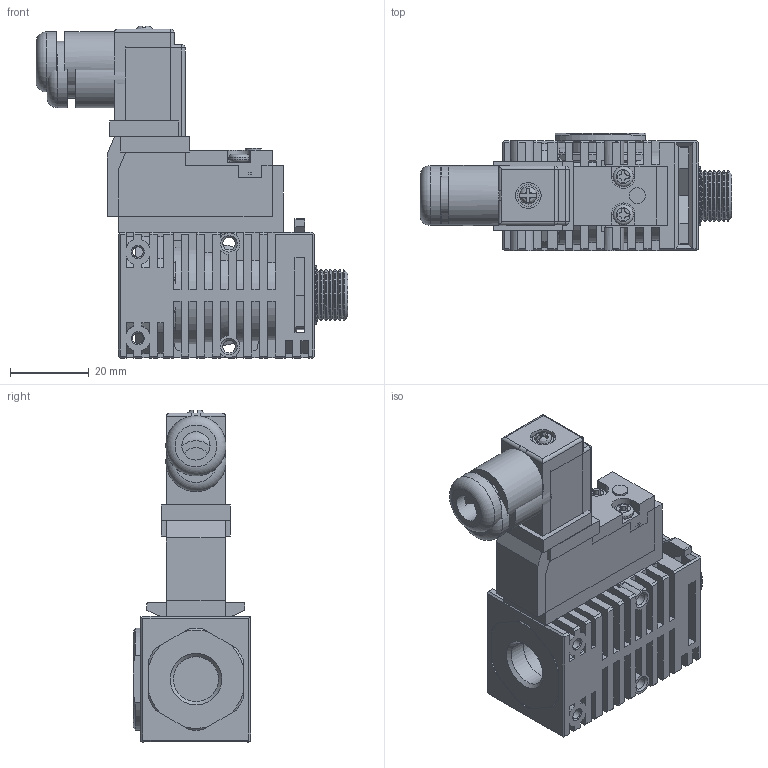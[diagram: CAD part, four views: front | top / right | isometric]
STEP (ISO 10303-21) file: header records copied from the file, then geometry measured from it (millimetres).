
FILE_DESCRIPTION( ( 'Unknown' ), '1' );
FILE_NAME( 'D:/New products_SE/VMS14/3D/VMS14-3-1.stp', 'Unknown', ( 'Unknown' ), ( 'Unknown' ), 'PSStep 10.0', 'Unknown', ' ' );
FILE_SCHEMA( ( 'AUTOMOTIVE_DESIGN { 1 0 10303 214 1 1 1 1 }' ) );
Length unit declared in the file: millimetre
Products named in the file (6): Assem1; End cap-rear-PT14; Housing(STEP¿ë; End cap-connector type; Stop ring; DIN TYPE
Bounding box: 79.44 x 30 x 84.58 mm (x, y, z)
Volume: 121148.3 mm3; surface area: 69501.5 mm2
Topology: 10 solids, 16 shells, 1758 faces, 4614 edges, 3020 vertices
Faces by surface type: plane 1108, cylinder 444, cone 130, torus 68, bspline 4, sphere 4
Full cylindrical faces by diameter (mm): 1 x8, 1.1 x4, 1.4 x4, 1.5 x4, 2.5 x4, 2.7 x8, 2.8 x2, 3 x4, 3.2 x4, 3.4 x2, 4 x2, 4.9 x2, 5.2 x4, 5.5 x2, 6.535 x2, 7.2 x2, 8 x4, 10 x4, 10.5 x2, 11.445 x2, 11.5 x2, 11.8 x2, 12 x4, 13 x2, 14.3 x2, 15 x4, 15.3 x4, 16 x2, 17 x2, 17.61 x2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
Entity records: 33742 total; most frequent: CARTESIAN_POINT 5233, DIRECTION 4352, ORIENTED_EDGE 4320, EDGE_CURVE 2160, LINE 1498, VECTOR 1498, VERTEX_POINT 1493, AXIS2_PLACEMENT_3D 1427
